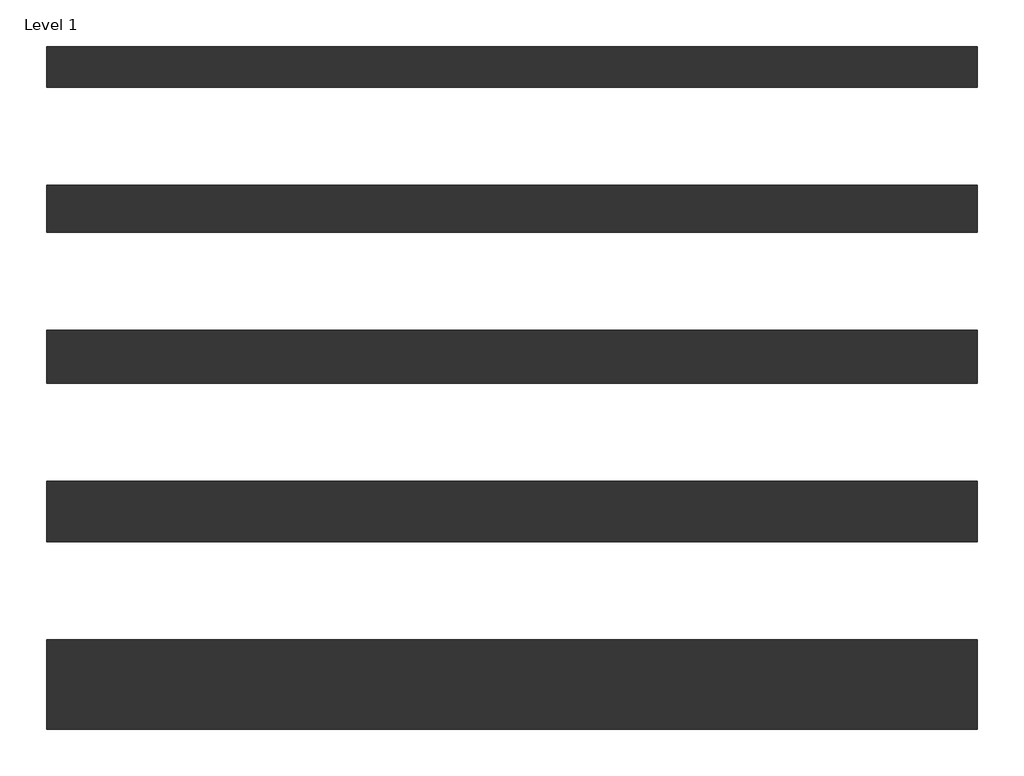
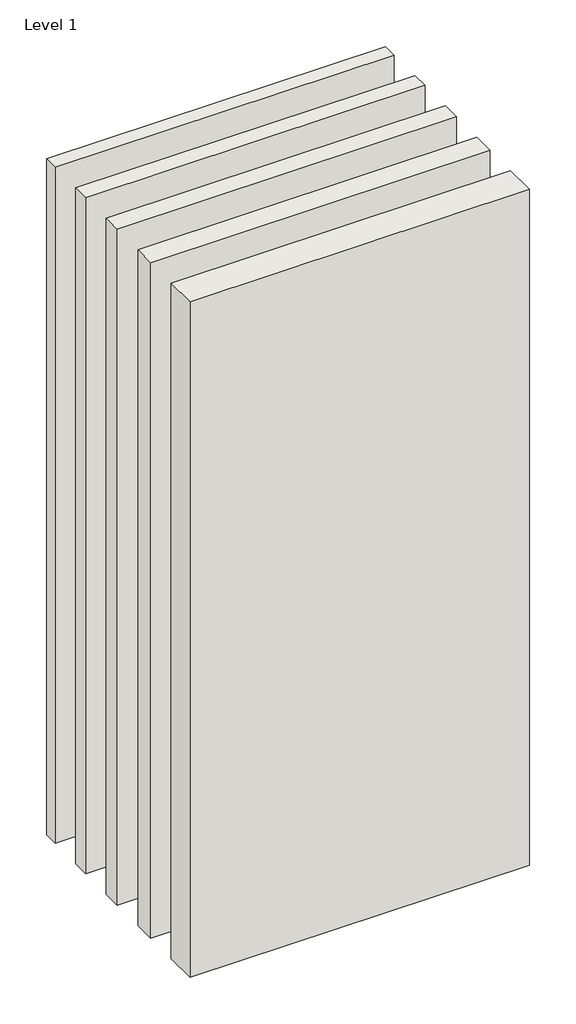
# One storey: 5 walls.
"""IFC4 building model written with IfcOpenShell, lengths in millimetres."""

from ifc_helpers import new_model, si_unit, origin, origin_with_axes, place, context, project, spatial, polyline, outline, extrude, element, save

model = new_model("IFC4")

# Units and contexts
model_context = context("Model", 3, world=origin())
ifc_project = project(units=[si_unit("LENGTHUNIT", "METRE", prefix="MILLI")], contexts=[model_context])

# Site, building, storey
site = spatial("IfcSite", under=ifc_project)
building = spatial("IfcBuilding", under=site)
storey = spatial("IfcBuildingStorey", under=building, Name="Level 1", Elevation=0.0)

# Walls
placement = place(None, origin())
element("IfcWall", 1, ObjectType="Interior-Steel Frame-Single Stud-CSR1065-108mm", at=placement, inside=storey, context=model_context, shape_type="SweptSolid", body=[
    extrude(outline(polyline([(-582.6024477, -1083.6333225), (1317.3975523, -1083.6333225), (1317.3975523, -1191.6333225), (-582.6024477, -1191.6333225), (-582.6024477, -1083.6333225)])), origin_with_axes(), (0.0, 0.0, 1.0), 4000.0),
])
element("IfcWall", 2, ObjectType="Interior-Steel Frame-Single Stud-CSR1065-124mm", at=placement, inside=storey, context=model_context, shape_type="SweptSolid", body=[
    extrude(outline(polyline([(-582.6024477, -1391.6333225), (1317.3975523, -1391.6333225), (1317.3975523, -1515.6333225), (-582.6024477, -1515.6333225), (-582.6024477, -1391.6333225)])), origin_with_axes(), (0.0, 0.0, 1.0), 4000.0),
])
element("IfcWall", 3, ObjectType="Interior-Steel Frame-Single Stud-CSR1065-182mm", at=placement, inside=storey, context=model_context, shape_type="SweptSolid", body=[
    extrude(outline(polyline([(-582.6024477, -1715.6333225), (1317.3975523, -1715.6333225), (1317.3975523, -1897.6333225), (-582.6024477, -1897.6333225), (-582.6024477, -1715.6333225)])), origin_with_axes(), (0.0, 0.0, 1.0), 4000.0),
])
element("IfcWall", 4, ObjectType="Interior-Steel Frame-Single Stud-CSR1065-83mm", at=placement, inside=storey, context=model_context, shape_type="SweptSolid", body=[
    extrude(outline(polyline([(-582.6024477, -504.6333225), (1317.3975523, -504.6333225), (1317.3975523, -587.6333225), (-582.6024477, -587.6333225), (-582.6024477, -504.6333225)])), origin_with_axes(), (0.0, 0.0, 1.0), 4000.0),
])
element("IfcWall", 5, ObjectType="Interior-Steel Frame-Single Stud-CSR1065-96mm", at=placement, inside=storey, context=model_context, shape_type="SweptSolid", body=[
    extrude(outline(polyline([(-582.6024477, -787.6333225), (1317.3975523, -787.6333225), (1317.3975523, -883.6333225), (-582.6024477, -883.6333225), (-582.6024477, -787.6333225)])), origin_with_axes(), (0.0, 0.0, 1.0), 4000.0),
])

save(model, "model.ifc")
